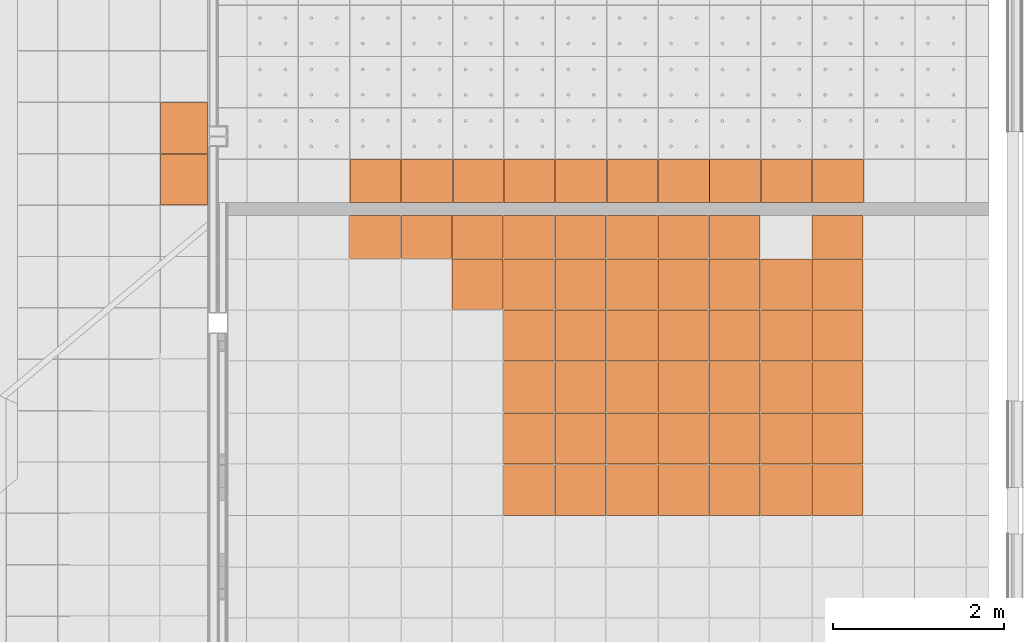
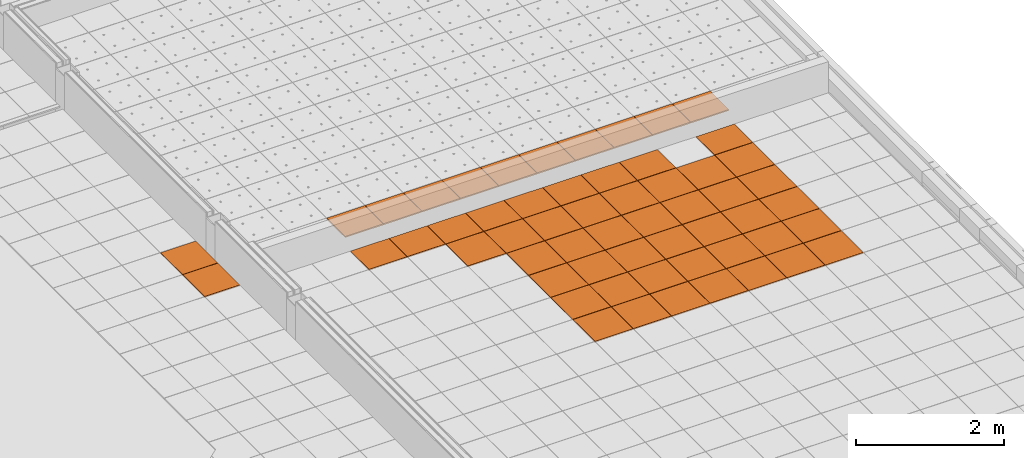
# One storey, part 219 of 338: 57 proxies, 3 elements without a shape of their own.
"""IFC2X3 building model written with IfcOpenShell, lengths in millimetres."""

from ifc_helpers import new_model, entity, si_unit, converted_unit, derived_unit, money_unit, direction, frame, origin_with_axes, place, context, subcontext, project, spatial, faceted_brep, source, transform, mapped, material, type_object, type_shapes, element, aggregate, save


model = new_model("IFC2X3")

# Units and contexts
model_context = context("Model", 3, precision=0.01, world=origin_with_axes(), true_north=direction((0.0, 1.0)))
plan_context = context("Plan", 3, precision=0.01, world=origin_with_axes(), true_north=direction((0.0, 1.0)))
body_context = subcontext(model_context, "Body", "Model", "MODEL_VIEW")
ifc_project = project(units=[si_unit("LENGTHUNIT", "METRE", prefix="MILLI"), si_unit("AREAUNIT", "SQUARE_METRE"), si_unit("VOLUMEUNIT", "CUBIC_METRE"), converted_unit("PLANEANGLEUNIT", "DEGREE", entity("IfcPlaneAngleMeasure", 0.0174532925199), si_unit("PLANEANGLEUNIT", "RADIAN"), dimensions=[0, 0, 0, 0, 0, 0, 0]), money_unit("EUR"), converted_unit("TIMEUNIT", "Year", entity("IfcTimeMeasure", 31556926.0), si_unit("TIMEUNIT", "SECOND"), dimensions=[0, 0, 1, 0, 0, 0, 0]), si_unit("MASSUNIT", "GRAM", prefix="KILO"), si_unit("THERMODYNAMICTEMPERATUREUNIT", "DEGREE_CELSIUS"), si_unit("LUMINOUSINTENSITYUNIT", "LUMEN"), si_unit("ENERGYUNIT", "JOULE", prefix="MEGA"), derived_unit("THERMALCONDUCTANCEUNIT", [(si_unit("POWERUNIT", "WATT"), 1), (si_unit("LENGTHUNIT", "METRE"), -1), (si_unit("THERMODYNAMICTEMPERATUREUNIT", "KELVIN"), -1)]), derived_unit("SPECIFICHEATCAPACITYUNIT", [(si_unit("ENERGYUNIT", "JOULE"), 1), (si_unit("MASSUNIT", "GRAM", prefix="KILO"), -1), (si_unit("THERMODYNAMICTEMPERATUREUNIT", "KELVIN"), -1)]), derived_unit("MASSDENSITYUNIT", [(si_unit("MASSUNIT", "GRAM", prefix="KILO"), 1), (si_unit("VOLUMEUNIT", "CUBIC_METRE"), -1)])], contexts=[model_context, plan_context])

# Site, building, storey
site_placement = place(None, origin_with_axes())
site = spatial("IfcSite", under=ifc_project, at=site_placement, Name="Fortuinstraat Woensdrecht", CompositionType="ELEMENT")
building_placement = place(site_placement, origin_with_axes())
building = spatial("IfcBuilding", under=site, at=building_placement, Name="IKC Fortuna", CompositionType="ELEMENT")
storey_placement = place(building_placement, origin_with_axes())
storey = spatial("IfcBuildingStorey", under=building, at=storey_placement, Name="00 begane grond", CompositionType="ELEMENT", Elevation=0.0)

# Covering, proxies
covering_type = type_object("IfcCoveringType", Name="Curtain Wall Type", PredefinedType="CEILING")
covering_1_placement = place(storey_placement, frame((34484.9342671, 3789.29664615, 3065.0), z_axis=(0.0, 0.0, 1.0), x_axis=(1.0, 0.0, 0.0)))
covering_1 = element("IfcCovering", 1, at=covering_1_placement, inside=storey, type_object=covering_type, Name="45_Plafondafwerking_P02 gec", PredefinedType="CEILING")
ifc_material = material(Name="Gipsplaat")
building_element_proxy_type_1 = type_object("IfcBuildingElementProxyType", Name="Distinct Panel 600 x 600 x 20", PredefinedType="NOTDEFINED")
shared_shape_1 = source(origin_with_axes(), body_context, "Body", "Brep", [
    faceted_brep([(-2.49999999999, 2.5, -10.0), (-2.49999999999, 2.5, 10.0), (-597.5, 2.49999999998, 10.0), (-597.5, 2.49999999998, -10.0), (-2.50000000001, 597.5, -10.0), (-2.50000000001, 597.5, 10.0), (-597.5, 597.5, 10.0), (-597.5, 597.5, -10.0)], [[[0, 1, 2, 3]], [[4, 5, 1, 0]], [[1, 5, 6, 2]], [[3, 2, 6, 7]], [[0, 3, 7, 4]], [[7, 6, 5, 4]]]),
])
proxy_1_placement = place(covering_1_placement, frame((-4034.49272604, 6599.99997773, 1.56319401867e-10), z_axis=(0.0, 0.0, 1.0), x_axis=(1.0, 0.0, 0.0)))
proxy_1 = element("IfcBuildingElementProxy", 2, at=proxy_1_placement, type_object=building_element_proxy_type_1, material=ifc_material, Name="__Panel-D", context=body_context, shape_type="MappedRepresentation", body=[
    mapped(shared_shape_1, transform((-300.0, 300.0, 0.0), x_axis=(-1.0, 0.0, 0.0), y_axis=(0.0, -1.0, 0.0), z_axis=(0.0, 0.0, 1.0))),
])
proxy_2_placement = place(covering_1_placement, frame((-3434.49272604, 6599.99997773, 1.75859327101e-10), z_axis=(0.0, 0.0, 1.0), x_axis=(1.0, 0.0, 0.0)))
proxy_2 = element("IfcBuildingElementProxy", 3, at=proxy_2_placement, type_object=building_element_proxy_type_1, material=ifc_material, Name="__Panel-D", context=body_context, shape_type="MappedRepresentation", body=[
    mapped(shared_shape_1, transform((-300.0, 300.0, 0.0), x_axis=(-1.0, 0.0, 0.0), y_axis=(0.0, -1.0, 0.0), z_axis=(0.0, 0.0, 1.0))),
])
proxy_3_placement = place(covering_1_placement, frame((-2834.49272604, 6599.99997773, 1.95399252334e-10), z_axis=(0.0, 0.0, 1.0), x_axis=(1.0, 0.0, 0.0)))
proxy_3 = element("IfcBuildingElementProxy", 4, at=proxy_3_placement, type_object=building_element_proxy_type_1, material=ifc_material, Name="__Panel-D", context=body_context, shape_type="MappedRepresentation", body=[
    mapped(shared_shape_1, transform((-300.0, 300.0, 0.0), x_axis=(-1.0, 0.0, 0.0), y_axis=(0.0, -1.0, 0.0), z_axis=(0.0, 0.0, 1.0))),
])
proxy_4_placement = place(covering_1_placement, frame((-1634.49272604, 6599.99997773, 2.34479102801e-10), z_axis=(0.0, 0.0, 1.0), x_axis=(1.0, 0.0, 0.0)))
proxy_4 = element("IfcBuildingElementProxy", 5, at=proxy_4_placement, type_object=building_element_proxy_type_1, material=ifc_material, Name="__Panel-D", context=body_context, shape_type="MappedRepresentation", body=[
    mapped(shared_shape_1, transform((-300.0, 300.0, 0.0), x_axis=(-1.0, 0.0, 0.0), y_axis=(0.0, -1.0, 0.0), z_axis=(0.0, 0.0, 1.0))),
])
proxy_5_placement = place(covering_1_placement, frame((-1634.49272604, 5999.99997773, 2.34479102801e-10), z_axis=(0.0, 0.0, 1.0), x_axis=(1.0, 0.0, 0.0)))
proxy_5 = element("IfcBuildingElementProxy", 6, at=proxy_5_placement, type_object=building_element_proxy_type_1, material=ifc_material, Name="__Panel-D", context=body_context, shape_type="MappedRepresentation", body=[
    mapped(shared_shape_1, transform((-300.0, 300.0, 0.0), x_axis=(-1.0, 0.0, 0.0), y_axis=(0.0, -1.0, 0.0), z_axis=(0.0, 0.0, 1.0))),
])
proxy_6_placement = place(covering_1_placement, frame((-2234.49272604, 5999.99997773, 2.14939177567e-10), z_axis=(0.0, 0.0, 1.0), x_axis=(1.0, 0.0, 0.0)))
proxy_6 = element("IfcBuildingElementProxy", 7, at=proxy_6_placement, type_object=building_element_proxy_type_1, material=ifc_material, Name="__Panel-D", context=body_context, shape_type="MappedRepresentation", body=[
    mapped(shared_shape_1, transform((-300.0, 300.0, 0.0), x_axis=(-1.0, 0.0, 0.0), y_axis=(0.0, -1.0, 0.0), z_axis=(0.0, 0.0, 1.0))),
])
proxy_7_placement = place(covering_1_placement, frame((-2834.49272604, 5999.99997773, 1.95399252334e-10), z_axis=(0.0, 0.0, 1.0), x_axis=(1.0, 0.0, 0.0)))
proxy_7 = element("IfcBuildingElementProxy", 8, at=proxy_7_placement, type_object=building_element_proxy_type_1, material=ifc_material, Name="__Panel-D", context=body_context, shape_type="MappedRepresentation", body=[
    mapped(shared_shape_1, transform((-300.0, 300.0, 0.0), x_axis=(-1.0, 0.0, 0.0), y_axis=(0.0, -1.0, 0.0), z_axis=(0.0, 0.0, 1.0))),
])
proxy_8_placement = place(covering_1_placement, frame((-3434.49272604, 5999.99997773, 1.75859327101e-10), z_axis=(0.0, 0.0, 1.0), x_axis=(1.0, 0.0, 0.0)))
proxy_8 = element("IfcBuildingElementProxy", 9, at=proxy_8_placement, type_object=building_element_proxy_type_1, material=ifc_material, Name="__Panel-D", context=body_context, shape_type="MappedRepresentation", body=[
    mapped(shared_shape_1, transform((-300.0, 300.0, 0.0), x_axis=(-1.0, 0.0, 0.0), y_axis=(0.0, -1.0, 0.0), z_axis=(0.0, 0.0, 1.0))),
])
proxy_9_placement = place(covering_1_placement, frame((-4034.49272604, 5999.99997773, 1.56319401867e-10), z_axis=(0.0, 0.0, 1.0), x_axis=(1.0, 0.0, 0.0)))
proxy_9 = element("IfcBuildingElementProxy", 10, at=proxy_9_placement, type_object=building_element_proxy_type_1, material=ifc_material, Name="__Panel-D", context=body_context, shape_type="MappedRepresentation", body=[
    mapped(shared_shape_1, transform((-300.0, 300.0, 0.0), x_axis=(-1.0, 0.0, 0.0), y_axis=(0.0, -1.0, 0.0), z_axis=(0.0, 0.0, 1.0))),
])
proxy_10_placement = place(covering_1_placement, frame((-4634.49272604, 6599.99997773, 1.37223565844e-10), z_axis=(0.0, 0.0, 1.0), x_axis=(1.0, 0.0, 0.0)))
proxy_10 = element("IfcBuildingElementProxy", 11, at=proxy_10_placement, type_object=building_element_proxy_type_1, material=ifc_material, Name="__Panel-D", context=body_context, shape_type="MappedRepresentation", body=[
    mapped(shared_shape_1, transform((-300.0, 300.0, 0.0), x_axis=(-1.0, 0.0, 0.0), y_axis=(0.0, -1.0, 0.0), z_axis=(0.0, 0.0, 1.0))),
])
proxy_11_placement = place(covering_1_placement, frame((-5234.49272604, 6599.99997773, 1.1768364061e-10), z_axis=(0.0, 0.0, 1.0), x_axis=(1.0, 0.0, 0.0)))
proxy_11 = element("IfcBuildingElementProxy", 12, at=proxy_11_placement, type_object=building_element_proxy_type_1, material=ifc_material, Name="__Panel-D", context=body_context, shape_type="MappedRepresentation", body=[
    mapped(shared_shape_1, transform((-300.0, 300.0, 0.0), x_axis=(-1.0, 0.0, 0.0), y_axis=(0.0, -1.0, 0.0), z_axis=(0.0, 0.0, 1.0))),
])
proxy_12_placement = place(covering_1_placement, frame((-5834.49272604, 6599.99997773, 0.0), z_axis=(0.0, 0.0, 1.0), x_axis=(1.0, 0.0, 0.0)))
proxy_12 = element("IfcBuildingElementProxy", 13, at=proxy_12_placement, type_object=building_element_proxy_type_1, material=ifc_material, Name="__Panel-D", context=body_context, shape_type="MappedRepresentation", body=[
    mapped(shared_shape_1, transform((-300.0, 300.0, 0.0), x_axis=(-1.0, 0.0, 0.0), y_axis=(0.0, -1.0, 0.0), z_axis=(0.0, 0.0, 1.0))),
])
proxy_13_placement = place(covering_1_placement, frame((-5234.49272604, 5399.99998887, 1.1768364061e-10), z_axis=(0.0, 0.0, 1.0), x_axis=(1.0, 0.0, 0.0)))
proxy_13 = element("IfcBuildingElementProxy", 14, at=proxy_13_placement, type_object=building_element_proxy_type_1, material=ifc_material, Name="__Panel-D", context=body_context, shape_type="MappedRepresentation", body=[
    mapped(shared_shape_1, transform((-300.0, 299.999988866, 0.0), x_axis=(-1.0, 0.0, 0.0), y_axis=(0.0, -1.0, 0.0), z_axis=(0.0, 0.0, 1.0))),
])
proxy_14_placement = place(covering_1_placement, frame((-4634.49272604, 5399.99998887, 1.37223565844e-10), z_axis=(0.0, 0.0, 1.0), x_axis=(1.0, 0.0, 0.0)))
proxy_14 = element("IfcBuildingElementProxy", 15, at=proxy_14_placement, type_object=building_element_proxy_type_1, material=ifc_material, Name="__Panel-D", context=body_context, shape_type="MappedRepresentation", body=[
    mapped(shared_shape_1, transform((-300.0, 299.999988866, 0.0), x_axis=(-1.0, 0.0, 0.0), y_axis=(0.0, -1.0, 0.0), z_axis=(0.0, 0.0, 1.0))),
])
proxy_15_placement = place(covering_1_placement, frame((-4034.49272604, 5399.99998887, 1.56319401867e-10), z_axis=(0.0, 0.0, 1.0), x_axis=(1.0, 0.0, 0.0)))
proxy_15 = element("IfcBuildingElementProxy", 16, at=proxy_15_placement, type_object=building_element_proxy_type_1, material=ifc_material, Name="__Panel-D", context=body_context, shape_type="MappedRepresentation", body=[
    mapped(shared_shape_1, transform((-300.0, 299.999988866, 0.0), x_axis=(-1.0, 0.0, 0.0), y_axis=(0.0, -1.0, 0.0), z_axis=(0.0, 0.0, 1.0))),
])
proxy_16_placement = place(covering_1_placement, frame((-3434.49272604, 5399.99998887, 1.75859327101e-10), z_axis=(0.0, 0.0, 1.0), x_axis=(1.0, 0.0, 0.0)))
proxy_16 = element("IfcBuildingElementProxy", 17, at=proxy_16_placement, type_object=building_element_proxy_type_1, material=ifc_material, Name="__Panel-D", context=body_context, shape_type="MappedRepresentation", body=[
    mapped(shared_shape_1, transform((-300.0, 299.999988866, 0.0), x_axis=(-1.0, 0.0, 0.0), y_axis=(0.0, -1.0, 0.0), z_axis=(0.0, 0.0, 1.0))),
])
proxy_17_placement = place(covering_1_placement, frame((-2834.49272604, 5399.99998887, 1.95399252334e-10), z_axis=(0.0, 0.0, 1.0), x_axis=(1.0, 0.0, 0.0)))
proxy_17 = element("IfcBuildingElementProxy", 18, at=proxy_17_placement, type_object=building_element_proxy_type_1, material=ifc_material, Name="__Panel-D", context=body_context, shape_type="MappedRepresentation", body=[
    mapped(shared_shape_1, transform((-300.0, 299.999988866, 0.0), x_axis=(-1.0, 0.0, 0.0), y_axis=(0.0, -1.0, 0.0), z_axis=(0.0, 0.0, 1.0))),
])
proxy_18_placement = place(covering_1_placement, frame((-2234.49272604, 5399.99998887, 2.14939177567e-10), z_axis=(0.0, 0.0, 1.0), x_axis=(1.0, 0.0, 0.0)))
proxy_18 = element("IfcBuildingElementProxy", 19, at=proxy_18_placement, type_object=building_element_proxy_type_1, material=ifc_material, Name="__Panel-D", context=body_context, shape_type="MappedRepresentation", body=[
    mapped(shared_shape_1, transform((-300.0, 299.999988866, 0.0), x_axis=(-1.0, 0.0, 0.0), y_axis=(0.0, -1.0, 0.0), z_axis=(0.0, 0.0, 1.0))),
])
proxy_19_placement = place(covering_1_placement, frame((-1634.49272604, 5399.99998887, 2.34479102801e-10), z_axis=(0.0, 0.0, 1.0), x_axis=(1.0, 0.0, 0.0)))
proxy_19 = element("IfcBuildingElementProxy", 20, at=proxy_19_placement, type_object=building_element_proxy_type_1, material=ifc_material, Name="__Panel-D", context=body_context, shape_type="MappedRepresentation", body=[
    mapped(shared_shape_1, transform((-300.0, 299.999988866, 0.0), x_axis=(-1.0, 0.0, 0.0), y_axis=(0.0, -1.0, 0.0), z_axis=(0.0, 0.0, 1.0))),
])
proxy_20_placement = place(covering_1_placement, frame((-1634.49272604, 4800.0, 2.34479102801e-10), z_axis=(0.0, 0.0, 1.0), x_axis=(1.0, 0.0, 0.0)))
proxy_20 = element("IfcBuildingElementProxy", 21, at=proxy_20_placement, type_object=building_element_proxy_type_1, material=ifc_material, Name="__Panel-D", context=body_context, shape_type="MappedRepresentation", body=[
    mapped(shared_shape_1, transform((-300.0, 300.0, 0.0), x_axis=(-1.0, 0.0, 0.0), y_axis=(0.0, -1.0, 0.0), z_axis=(0.0, 0.0, 1.0))),
])
proxy_21_placement = place(covering_1_placement, frame((-1634.49272604, 4200.0, 2.34479102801e-10), z_axis=(0.0, 0.0, 1.0), x_axis=(1.0, 0.0, 0.0)))
proxy_21 = element("IfcBuildingElementProxy", 22, at=proxy_21_placement, type_object=building_element_proxy_type_1, material=ifc_material, Name="__Panel-D", context=body_context, shape_type="MappedRepresentation", body=[
    mapped(shared_shape_1, transform((-300.0, 300.0, 0.0), x_axis=(-1.0, 0.0, 0.0), y_axis=(0.0, -1.0, 0.0), z_axis=(0.0, 0.0, 1.0))),
])
proxy_22_placement = place(covering_1_placement, frame((-2234.49272604, 4200.0, 2.14939177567e-10), z_axis=(0.0, 0.0, 1.0), x_axis=(1.0, 0.0, 0.0)))
proxy_22 = element("IfcBuildingElementProxy", 23, at=proxy_22_placement, type_object=building_element_proxy_type_1, material=ifc_material, Name="__Panel-D", context=body_context, shape_type="MappedRepresentation", body=[
    mapped(shared_shape_1, transform((-300.0, 300.0, 0.0), x_axis=(-1.0, 0.0, 0.0), y_axis=(0.0, -1.0, 0.0), z_axis=(0.0, 0.0, 1.0))),
])
proxy_23_placement = place(covering_1_placement, frame((-2234.49272604, 4800.0, 2.14939177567e-10), z_axis=(0.0, 0.0, 1.0), x_axis=(1.0, 0.0, 0.0)))
proxy_23 = element("IfcBuildingElementProxy", 24, at=proxy_23_placement, type_object=building_element_proxy_type_1, material=ifc_material, Name="__Panel-D", context=body_context, shape_type="MappedRepresentation", body=[
    mapped(shared_shape_1, transform((-300.0, 300.0, 0.0), x_axis=(-1.0, 0.0, 0.0), y_axis=(0.0, -1.0, 0.0), z_axis=(0.0, 0.0, 1.0))),
])
proxy_24_placement = place(covering_1_placement, frame((-2834.49272604, 4800.0, 1.95399252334e-10), z_axis=(0.0, 0.0, 1.0), x_axis=(1.0, 0.0, 0.0)))
proxy_24 = element("IfcBuildingElementProxy", 25, at=proxy_24_placement, type_object=building_element_proxy_type_1, material=ifc_material, Name="__Panel-D", context=body_context, shape_type="MappedRepresentation", body=[
    mapped(shared_shape_1, transform((-300.0, 300.0, 0.0), x_axis=(-1.0, 0.0, 0.0), y_axis=(0.0, -1.0, 0.0), z_axis=(0.0, 0.0, 1.0))),
])
proxy_25_placement = place(covering_1_placement, frame((-3434.49272604, 4800.0, 1.75859327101e-10), z_axis=(0.0, 0.0, 1.0), x_axis=(1.0, 0.0, 0.0)))
proxy_25 = element("IfcBuildingElementProxy", 26, at=proxy_25_placement, type_object=building_element_proxy_type_1, material=ifc_material, Name="__Panel-D", context=body_context, shape_type="MappedRepresentation", body=[
    mapped(shared_shape_1, transform((-300.0, 300.0, 0.0), x_axis=(-1.0, 0.0, 0.0), y_axis=(0.0, -1.0, 0.0), z_axis=(0.0, 0.0, 1.0))),
])
proxy_26_placement = place(covering_1_placement, frame((-4034.49272604, 4800.0, 1.56319401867e-10), z_axis=(0.0, 0.0, 1.0), x_axis=(1.0, 0.0, 0.0)))
proxy_26 = element("IfcBuildingElementProxy", 27, at=proxy_26_placement, type_object=building_element_proxy_type_1, material=ifc_material, Name="__Panel-D", context=body_context, shape_type="MappedRepresentation", body=[
    mapped(shared_shape_1, transform((-300.0, 300.0, 0.0), x_axis=(-1.0, 0.0, 0.0), y_axis=(0.0, -1.0, 0.0), z_axis=(0.0, 0.0, 1.0))),
])
proxy_27_placement = place(covering_1_placement, frame((-4634.49272604, 4800.0, 1.37223565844e-10), z_axis=(0.0, 0.0, 1.0), x_axis=(1.0, 0.0, 0.0)))
proxy_27 = element("IfcBuildingElementProxy", 28, at=proxy_27_placement, type_object=building_element_proxy_type_1, material=ifc_material, Name="__Panel-D", context=body_context, shape_type="MappedRepresentation", body=[
    mapped(shared_shape_1, transform((-300.0, 300.0, 0.0), x_axis=(-1.0, 0.0, 0.0), y_axis=(0.0, -1.0, 0.0), z_axis=(0.0, 0.0, 1.0))),
])
proxy_28_placement = place(covering_1_placement, frame((-5234.49272604, 4800.0, 1.1768364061e-10), z_axis=(0.0, 0.0, 1.0), x_axis=(1.0, 0.0, 0.0)))
proxy_28 = element("IfcBuildingElementProxy", 29, at=proxy_28_placement, type_object=building_element_proxy_type_1, material=ifc_material, Name="__Panel-D", context=body_context, shape_type="MappedRepresentation", body=[
    mapped(shared_shape_1, transform((-300.0, 300.0, 0.0), x_axis=(-1.0, 0.0, 0.0), y_axis=(0.0, -1.0, 0.0), z_axis=(0.0, 0.0, 1.0))),
])
proxy_29_placement = place(covering_1_placement, frame((-5234.49272604, 4200.0, 1.1768364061e-10), z_axis=(0.0, 0.0, 1.0), x_axis=(1.0, 0.0, 0.0)))
proxy_29 = element("IfcBuildingElementProxy", 30, at=proxy_29_placement, type_object=building_element_proxy_type_1, material=ifc_material, Name="__Panel-D", context=body_context, shape_type="MappedRepresentation", body=[
    mapped(shared_shape_1, transform((-300.0, 300.0, 0.0), x_axis=(-1.0, 0.0, 0.0), y_axis=(0.0, -1.0, 0.0), z_axis=(0.0, 0.0, 1.0))),
])
proxy_30_placement = place(covering_1_placement, frame((-4634.49272604, 4200.0, 1.37223565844e-10), z_axis=(0.0, 0.0, 1.0), x_axis=(1.0, 0.0, 0.0)))
proxy_30 = element("IfcBuildingElementProxy", 31, at=proxy_30_placement, type_object=building_element_proxy_type_1, material=ifc_material, Name="__Panel-D", context=body_context, shape_type="MappedRepresentation", body=[
    mapped(shared_shape_1, transform((-300.0, 300.0, 0.0), x_axis=(-1.0, 0.0, 0.0), y_axis=(0.0, -1.0, 0.0), z_axis=(0.0, 0.0, 1.0))),
])
proxy_31_placement = place(covering_1_placement, frame((-4034.49272604, 4200.0, 1.56319401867e-10), z_axis=(0.0, 0.0, 1.0), x_axis=(1.0, 0.0, 0.0)))
proxy_31 = element("IfcBuildingElementProxy", 32, at=proxy_31_placement, type_object=building_element_proxy_type_1, material=ifc_material, Name="__Panel-D", context=body_context, shape_type="MappedRepresentation", body=[
    mapped(shared_shape_1, transform((-300.0, 300.0, 0.0), x_axis=(-1.0, 0.0, 0.0), y_axis=(0.0, -1.0, 0.0), z_axis=(0.0, 0.0, 1.0))),
])
proxy_32_placement = place(covering_1_placement, frame((-3434.49272604, 4200.0, 1.75859327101e-10), z_axis=(0.0, 0.0, 1.0), x_axis=(1.0, 0.0, 0.0)))
proxy_32 = element("IfcBuildingElementProxy", 33, at=proxy_32_placement, type_object=building_element_proxy_type_1, material=ifc_material, Name="__Panel-D", context=body_context, shape_type="MappedRepresentation", body=[
    mapped(shared_shape_1, transform((-300.0, 300.0, 0.0), x_axis=(-1.0, 0.0, 0.0), y_axis=(0.0, -1.0, 0.0), z_axis=(0.0, 0.0, 1.0))),
])
proxy_33_placement = place(covering_1_placement, frame((-2834.49272604, 4200.0, 1.95399252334e-10), z_axis=(0.0, 0.0, 1.0), x_axis=(1.0, 0.0, 0.0)))
proxy_33 = element("IfcBuildingElementProxy", 34, at=proxy_33_placement, type_object=building_element_proxy_type_1, material=ifc_material, Name="__Panel-D", context=body_context, shape_type="MappedRepresentation", body=[
    mapped(shared_shape_1, transform((-300.0, 300.0, 0.0), x_axis=(-1.0, 0.0, 0.0), y_axis=(0.0, -1.0, 0.0), z_axis=(0.0, 0.0, 1.0))),
])
shared_shape_2 = source(origin_with_axes(), body_context, "Body", "Brep", [
    faceted_brep([(-2.5000069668, 2.4999963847, -10.0), (-2.5000069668, 2.4999963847, 10.0), (-597.499995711, 2.50000275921, 10.0), (-597.499995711, 2.50000275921, -10.0), (-2.50000214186, 597.499967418, -10.0), (-2.50000214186, 597.499967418, 10.0), (-597.499990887, 597.499973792, 10.0), (-597.499990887, 597.499973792, -10.0)], [[[0, 1, 2, 3]], [[4, 5, 1, 0]], [[1, 5, 6, 2]], [[3, 2, 6, 7]], [[0, 3, 7, 4]], [[7, 6, 5, 4]]]),
])
type_shapes(building_element_proxy_type_1, [shared_shape_1, shared_shape_2])
proxy_34_placement = place(covering_1_placement, frame((-2234.49272604, 6599.99997773, 2.14939177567e-10), z_axis=(0.0, 0.0, 1.0), x_axis=(1.0, 0.0, 0.0)))
proxy_34 = element("IfcBuildingElementProxy", 35, at=proxy_34_placement, type_object=building_element_proxy_type_1, material=ifc_material, Name="__Panel-D", context=body_context, shape_type="MappedRepresentation", body=[
    mapped(shared_shape_2, transform((-300.0, 300.0, 0.0), x_axis=(-1.0, 0.0, 0.0), y_axis=(0.0, -1.0, 0.0), z_axis=(0.0, 0.0, 1.0))),
])
proxy_35_placement = place(covering_1_placement, frame((-4634.49272604, 5999.99997773, 1.37223565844e-10), z_axis=(0.0, 0.0, 1.0), x_axis=(1.0, 0.0, 0.0)))
proxy_35 = element("IfcBuildingElementProxy", 36, at=proxy_35_placement, type_object=building_element_proxy_type_1, material=ifc_material, Name="__Panel-D", context=body_context, shape_type="MappedRepresentation", body=[
    mapped(shared_shape_2, transform((-300.0, 300.0, 0.0), x_axis=(-1.0, 0.0, 0.0), y_axis=(0.0, -1.0, 0.0), z_axis=(0.0, 0.0, 1.0))),
])
proxy_36_placement = place(covering_1_placement, frame((-5234.49272604, 5999.99997773, 1.1768364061e-10), z_axis=(0.0, 0.0, 1.0), x_axis=(1.0, 0.0, 0.0)))
proxy_36 = element("IfcBuildingElementProxy", 37, at=proxy_36_placement, type_object=building_element_proxy_type_1, material=ifc_material, Name="__Panel-D", context=body_context, shape_type="MappedRepresentation", body=[
    mapped(shared_shape_2, transform((-300.0, 300.0, 0.0), x_axis=(-1.0, 0.0, 0.0), y_axis=(0.0, -1.0, 0.0), z_axis=(0.0, 0.0, 1.0))),
])
building_element_proxy_type_2 = type_object("IfcBuildingElementProxyType", Name="Distinct Panel 600 x 503 x 20", PredefinedType="NOTDEFINED")
shared_shape_3 = source(origin_with_axes(), body_context, "Body", "Brep", [
    faceted_brep([(-2.49999999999, 99.4999854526, -10.0), (-2.49999999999, 99.4999854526, 10.0), (-597.5, 99.4999854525, 10.0), (-597.5, 99.4999854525, -10.0), (-2.50000000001, 597.500003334, -10.0), (-2.50000000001, 597.500003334, 10.0), (-597.5, 597.500003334, 10.0), (-597.5, 597.500003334, -10.0)], [[[0, 1, 2, 3]], [[4, 5, 1, 0]], [[1, 5, 6, 2]], [[3, 2, 6, 7]], [[0, 3, 7, 4]], [[7, 6, 5, 4]]]),
])
type_shapes(building_element_proxy_type_2, [shared_shape_3])
proxy_37_placement = place(covering_1_placement, frame((-7034.49272604, 7151.49999599, 0.0), z_axis=(0.0, 0.0, 1.0), x_axis=(1.0, 0.0, 0.0)))
proxy_37 = element("IfcBuildingElementProxy", 38, at=proxy_37_placement, type_object=building_element_proxy_type_2, material=ifc_material, Name="__Panel-D", context=body_context, shape_type="MappedRepresentation", body=[
    mapped(shared_shape_3, transform((-300.0, 348.500004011, 0.0), x_axis=(-1.0, 0.0, 0.0), y_axis=(0.0, -1.0, 0.0), z_axis=(0.0, 0.0, 1.0))),
])
proxy_38_placement = place(covering_1_placement, frame((-6434.49272604, 7151.49999599, 0.0), z_axis=(0.0, 0.0, 1.0), x_axis=(1.0, 0.0, 0.0)))
proxy_38 = element("IfcBuildingElementProxy", 39, at=proxy_38_placement, type_object=building_element_proxy_type_2, material=ifc_material, Name="__Panel-D", context=body_context, shape_type="MappedRepresentation", body=[
    mapped(shared_shape_3, transform((-300.0, 348.500004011, 0.0), x_axis=(-1.0, 0.0, 0.0), y_axis=(0.0, -1.0, 0.0), z_axis=(0.0, 0.0, 1.0))),
])
proxy_39_placement = place(covering_1_placement, frame((-5834.49272604, 7151.49999599, 0.0), z_axis=(0.0, 0.0, 1.0), x_axis=(1.0, 0.0, 0.0)))
proxy_39 = element("IfcBuildingElementProxy", 40, at=proxy_39_placement, type_object=building_element_proxy_type_2, material=ifc_material, Name="__Panel-D", context=body_context, shape_type="MappedRepresentation", body=[
    mapped(shared_shape_3, transform((-300.0, 348.500004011, 0.0), x_axis=(-1.0, 0.0, 0.0), y_axis=(0.0, -1.0, 0.0), z_axis=(0.0, 0.0, 1.0))),
])
proxy_40_placement = place(covering_1_placement, frame((-5234.49272604, 7151.49999599, 1.1768364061e-10), z_axis=(0.0, 0.0, 1.0), x_axis=(1.0, 0.0, 0.0)))
proxy_40 = element("IfcBuildingElementProxy", 41, at=proxy_40_placement, type_object=building_element_proxy_type_2, material=ifc_material, Name="__Panel-D", context=body_context, shape_type="MappedRepresentation", body=[
    mapped(shared_shape_3, transform((-300.0, 348.500004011, 0.0), x_axis=(-1.0, 0.0, 0.0), y_axis=(0.0, -1.0, 0.0), z_axis=(0.0, 0.0, 1.0))),
])
proxy_41_placement = place(covering_1_placement, frame((-4634.49272604, 7151.49999599, 1.37223565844e-10), z_axis=(0.0, 0.0, 1.0), x_axis=(1.0, 0.0, 0.0)))
proxy_41 = element("IfcBuildingElementProxy", 42, at=proxy_41_placement, type_object=building_element_proxy_type_2, material=ifc_material, Name="__Panel-D", context=body_context, shape_type="MappedRepresentation", body=[
    mapped(shared_shape_3, transform((-300.0, 348.500004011, 0.0), x_axis=(-1.0, 0.0, 0.0), y_axis=(0.0, -1.0, 0.0), z_axis=(0.0, 0.0, 1.0))),
])
proxy_42_placement = place(covering_1_placement, frame((-4034.49272604, 7151.49999599, 1.56319401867e-10), z_axis=(0.0, 0.0, 1.0), x_axis=(1.0, 0.0, 0.0)))
proxy_42 = element("IfcBuildingElementProxy", 43, at=proxy_42_placement, type_object=building_element_proxy_type_2, material=ifc_material, Name="__Panel-D", context=body_context, shape_type="MappedRepresentation", body=[
    mapped(shared_shape_3, transform((-300.0, 348.500004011, 0.0), x_axis=(-1.0, 0.0, 0.0), y_axis=(0.0, -1.0, 0.0), z_axis=(0.0, 0.0, 1.0))),
])
proxy_43_placement = place(covering_1_placement, frame((-3434.49272604, 7151.49999599, 1.75859327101e-10), z_axis=(0.0, 0.0, 1.0), x_axis=(1.0, 0.0, 0.0)))
proxy_43 = element("IfcBuildingElementProxy", 44, at=proxy_43_placement, type_object=building_element_proxy_type_2, material=ifc_material, Name="__Panel-D", context=body_context, shape_type="MappedRepresentation", body=[
    mapped(shared_shape_3, transform((-300.0, 348.500004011, 0.0), x_axis=(-1.0, 0.0, 0.0), y_axis=(0.0, -1.0, 0.0), z_axis=(0.0, 0.0, 1.0))),
])
proxy_44_placement = place(covering_1_placement, frame((-2834.49272604, 7151.49999599, 1.95399252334e-10), z_axis=(0.0, 0.0, 1.0), x_axis=(1.0, 0.0, 0.0)))
proxy_44 = element("IfcBuildingElementProxy", 45, at=proxy_44_placement, type_object=building_element_proxy_type_2, material=ifc_material, Name="__Panel-D", context=body_context, shape_type="MappedRepresentation", body=[
    mapped(shared_shape_3, transform((-300.0, 348.500004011, 0.0), x_axis=(-1.0, 0.0, 0.0), y_axis=(0.0, -1.0, 0.0), z_axis=(0.0, 0.0, 1.0))),
])
proxy_45_placement = place(covering_1_placement, frame((-1634.49272604, 7151.4999872, 2.34479102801e-10), z_axis=(0.0, 0.0, 1.0), x_axis=(1.0, 0.0, 0.0)))
proxy_45 = element("IfcBuildingElementProxy", 46, at=proxy_45_placement, type_object=building_element_proxy_type_2, material=ifc_material, Name="__Panel-D", context=body_context, shape_type="MappedRepresentation", body=[
    mapped(shared_shape_3, transform((-300.0, 348.500012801, 0.0), x_axis=(-1.0, 0.0, 0.0), y_axis=(0.0, -1.0, 0.0), z_axis=(0.0, 0.0, 1.0))),
])
aggregate(covering_1, [proxy_1, proxy_2, proxy_3, proxy_34, proxy_4, proxy_5, proxy_6, proxy_7, proxy_8, proxy_9, proxy_35, proxy_10, proxy_11, proxy_36, proxy_12, proxy_13, proxy_14, proxy_15, proxy_16, proxy_17, proxy_18, proxy_19, proxy_20, proxy_21, proxy_22, proxy_23, proxy_24, proxy_25, proxy_26, proxy_27, proxy_28, proxy_29, proxy_30, proxy_31, proxy_32, proxy_33, proxy_37, proxy_38, proxy_39, proxy_40, proxy_41, proxy_42, proxy_43, proxy_44, proxy_45])

covering_2_placement = place(storey_placement, frame((31656.9226967, 15748.5304598, 3210.0), z_axis=(0.0, 0.0, 1.0), x_axis=(1.0, 0.0, 0.0)))
covering_2 = element("IfcCovering", 47, at=covering_2_placement, inside=storey, type_object=covering_type, Name="45_Plafondafwerking_P01", PredefinedType="CEILING")
building_element_proxy_type_3 = type_object("IfcBuildingElementProxyType", Name="600 x 506 x 20", PredefinedType="NOTDEFINED")
shared_shape_4 = source(origin_with_axes(), body_context, "Body", "Brep", [
    faceted_brep([(2.49999999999, 2.49999996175, -10.0), (597.5, 2.49999996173, -10.0), (597.5, 2.49999996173, 10.0), (2.49999999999, 2.49999996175, 10.0), (2.50000000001, 503.733772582, -10.0), (597.5, 503.733772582, -10.0), (597.5, 503.733772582, 10.0), (2.50000000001, 503.733772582, 10.0)], [[[0, 1, 2, 3]], [[0, 4, 5, 1]], [[1, 5, 6, 2]], [[3, 2, 6, 7]], [[4, 0, 3, 7]], [[5, 4, 7, 6]]]),
])
type_shapes(building_element_proxy_type_3, [shared_shape_4])
proxy_46_placement = place(covering_2_placement, frame((-2400.0, -4153.11687963, 1.74971148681e-10), z_axis=(0.0, 0.0, 1.0), x_axis=(1.0, 0.0, 0.0)))
proxy_46 = element("IfcBuildingElementProxy", 48, at=proxy_46_placement, type_object=building_element_proxy_type_3, material=ifc_material, Name="__600x621 Rockfon Krios", context=body_context, shape_type="MappedRepresentation", body=[
    mapped(shared_shape_4, transform((300.0, 253.11687963, 0.0), x_axis=(-1.0, 0.0, 0.0), y_axis=(0.0, -1.0, 0.0), z_axis=(0.0, 0.0, 1.0))),
])
proxy_47_placement = place(covering_2_placement, frame((-3600.0, -4153.11687963, 2.14495088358e-10), z_axis=(0.0, 0.0, 1.0), x_axis=(1.0, 0.0, 0.0)))
proxy_47 = element("IfcBuildingElementProxy", 49, at=proxy_47_placement, type_object=building_element_proxy_type_3, material=ifc_material, Name="__600x626 Rockfon Krios", context=body_context, shape_type="MappedRepresentation", body=[
    mapped(shared_shape_4, transform((300.0, 253.11687963, 0.0), x_axis=(-1.0, 0.0, 0.0), y_axis=(0.0, -1.0, 0.0), z_axis=(0.0, 0.0, 1.0))),
])
proxy_48_placement = place(covering_2_placement, frame((1200.0, -4153.11687963, 0.0), z_axis=(0.0, 0.0, 1.0), x_axis=(1.0, 0.0, 0.0)))
proxy_48 = element("IfcBuildingElementProxy", 50, at=proxy_48_placement, type_object=building_element_proxy_type_3, material=ifc_material, Name="__600x637 Rockfon Krios", context=body_context, shape_type="MappedRepresentation", body=[
    mapped(shared_shape_4, transform((300.0, 253.11687963, 0.0), x_axis=(-1.0, 0.0, 0.0), y_axis=(0.0, -1.0, 0.0), z_axis=(0.0, 0.0, 1.0))),
])
proxy_49_placement = place(covering_2_placement, frame((-4200.0, -4153.11687963, 2.34035013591e-10), z_axis=(0.0, 0.0, 1.0), x_axis=(1.0, 0.0, 0.0)))
proxy_49 = element("IfcBuildingElementProxy", 51, at=proxy_49_placement, type_object=building_element_proxy_type_3, material=ifc_material, Name="__600x683 Rockfon Krios", context=body_context, shape_type="MappedRepresentation", body=[
    mapped(shared_shape_4, transform((300.0, 253.116879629, 0.0), x_axis=(-1.0, 0.0, 0.0), y_axis=(0.0, -1.0, 0.0), z_axis=(0.0, 0.0, 1.0))),
])
proxy_50_placement = place(covering_2_placement, frame((0.0, -4153.11687963, 0.0), z_axis=(0.0, 0.0, 1.0), x_axis=(1.0, 0.0, 0.0)))
proxy_50 = element("IfcBuildingElementProxy", 52, at=proxy_50_placement, type_object=building_element_proxy_type_3, material=ifc_material, Name="__600x692 Rockfon Krios", context=body_context, shape_type="MappedRepresentation", body=[
    mapped(shared_shape_4, transform((300.0, 253.11687963, 0.0), x_axis=(-1.0, 0.0, 0.0), y_axis=(0.0, -1.0, 0.0), z_axis=(0.0, 0.0, 1.0))),
])
proxy_51_placement = place(covering_2_placement, frame((600.0, -4153.11687963, 0.0), z_axis=(0.0, 0.0, 1.0), x_axis=(1.0, 0.0, 0.0)))
proxy_51 = element("IfcBuildingElementProxy", 53, at=proxy_51_placement, type_object=building_element_proxy_type_3, material=ifc_material, Name="__600x714 Rockfon Krios", context=body_context, shape_type="MappedRepresentation", body=[
    mapped(shared_shape_4, transform((300.0, 253.11687963, 0.0), x_axis=(-1.0, 0.0, 0.0), y_axis=(0.0, -1.0, 0.0), z_axis=(0.0, 0.0, 1.0))),
])
proxy_52_placement = place(covering_2_placement, frame((-600.0, -4153.11687963, 1.15907283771e-10), z_axis=(0.0, 0.0, 1.0), x_axis=(1.0, 0.0, 0.0)))
proxy_52 = element("IfcBuildingElementProxy", 54, at=proxy_52_placement, type_object=building_element_proxy_type_3, material=ifc_material, Name="__600x730 Rockfon Krios", context=body_context, shape_type="MappedRepresentation", body=[
    mapped(shared_shape_4, transform((300.0, 253.11687963, 0.0), x_axis=(-1.0, 0.0, 0.0), y_axis=(0.0, -1.0, 0.0), z_axis=(0.0, 0.0, 1.0))),
])
proxy_53_placement = place(covering_2_placement, frame((-1200.0, -4153.11687963, 1.35891298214e-10), z_axis=(0.0, 0.0, 1.0), x_axis=(1.0, 0.0, 0.0)))
proxy_53 = element("IfcBuildingElementProxy", 55, at=proxy_53_placement, type_object=building_element_proxy_type_3, material=ifc_material, Name="__600x739 Rockfon Krios", context=body_context, shape_type="MappedRepresentation", body=[
    mapped(shared_shape_4, transform((300.0, 253.11687963, 0.0), x_axis=(-1.0, 0.0, 0.0), y_axis=(0.0, -1.0, 0.0), z_axis=(0.0, 0.0, 1.0))),
])
proxy_54_placement = place(covering_2_placement, frame((-1800.0, -4153.11687963, 1.55431223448e-10), z_axis=(0.0, 0.0, 1.0), x_axis=(1.0, 0.0, 0.0)))
proxy_54 = element("IfcBuildingElementProxy", 56, at=proxy_54_placement, type_object=building_element_proxy_type_3, material=ifc_material, Name="__600x746 Rockfon Krios", context=body_context, shape_type="MappedRepresentation", body=[
    mapped(shared_shape_4, transform((300.0, 253.11687963, 0.0), x_axis=(-1.0, 0.0, 0.0), y_axis=(0.0, -1.0, 0.0), z_axis=(0.0, 0.0, 1.0))),
])
proxy_55_placement = place(covering_2_placement, frame((-3000.0, -4153.11687963, 1.94511073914e-10), z_axis=(0.0, 0.0, 1.0), x_axis=(1.0, 0.0, 0.0)))
proxy_55 = element("IfcBuildingElementProxy", 57, at=proxy_55_placement, type_object=building_element_proxy_type_3, material=ifc_material, Name="__600x762 Rockfon Krios", context=body_context, shape_type="MappedRepresentation", body=[
    mapped(shared_shape_4, transform((300.0, 253.11687963, 0.0), x_axis=(-1.0, 0.0, 0.0), y_axis=(0.0, -1.0, 0.0), z_axis=(0.0, 0.0, 1.0))),
])
aggregate(covering_2, [proxy_46, proxy_47, proxy_48, proxy_49, proxy_50, proxy_51, proxy_52, proxy_53, proxy_54, proxy_55])

covering_3_placement = place(storey_placement, frame((23508.1808374, 14013.4616156, 3010.0), z_axis=(0.0, 0.0, 1.0), x_axis=(1.0, 0.0, 0.0)))
covering_3 = element("IfcCovering", 58, at=covering_3_placement, inside=storey, type_object=covering_type, Name="45_Plafondafwerking_P04", PredefinedType="CEILING")
building_element_proxy_type_4 = type_object("IfcBuildingElementProxyType", Name="Distinct Panel 553 x 600 x 20", PredefinedType="NOTDEFINED")
shared_shape_5 = source(origin_with_axes(), body_context, "Body", "Brep", [
    faceted_brep([(-2.49999914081, 2.5, -10.0), (-2.49999914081, 2.5, 10.0), (-550.508421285, 2.49999999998, 10.0), (-550.508421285, 2.49999999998, -10.0), (-2.49999914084, 597.5, -10.0), (-2.49999914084, 597.5, 10.0), (-550.508421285, 597.5, 10.0), (-550.508421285, 597.5, -10.0)], [[[0, 1, 2, 3]], [[4, 5, 1, 0]], [[1, 5, 6, 2]], [[3, 2, 6, 7]], [[0, 3, 7, 4]], [[7, 6, 5, 4]]]),
])
type_shapes(building_element_proxy_type_4, [shared_shape_5])
proxy_56_placement = place(covering_3_placement, frame((1713.24997513, -2400.0, 1.22568621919e-10), z_axis=(0.0, 0.0, 1.0), x_axis=(1.0, 0.0, 0.0)))
proxy_56 = element("IfcBuildingElementProxy", 59, at=proxy_56_placement, type_object=building_element_proxy_type_4, material=ifc_material, Name="__Panel-D", context=body_context, shape_type="MappedRepresentation", body=[
    mapped(shared_shape_5, transform((-276.504210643, 300.0, 0.0), x_axis=(-1.0, 0.0, 0.0), y_axis=(0.0, -1.0, 0.0), z_axis=(0.0, 0.0, 1.0))),
])
proxy_57_placement = place(covering_3_placement, frame((1713.24997513, -1800.0, 1.22568621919e-10), z_axis=(0.0, 0.0, 1.0), x_axis=(1.0, 0.0, 0.0)))
proxy_57 = element("IfcBuildingElementProxy", 60, at=proxy_57_placement, type_object=building_element_proxy_type_4, material=ifc_material, Name="__Panel-D", context=body_context, shape_type="MappedRepresentation", body=[
    mapped(shared_shape_5, transform((-276.504210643, 300.0, 0.0), x_axis=(-1.0, 0.0, 0.0), y_axis=(0.0, -1.0, 0.0), z_axis=(0.0, 0.0, 1.0))),
])
aggregate(covering_3, [proxy_56, proxy_57])

save(model, "model.ifc")
